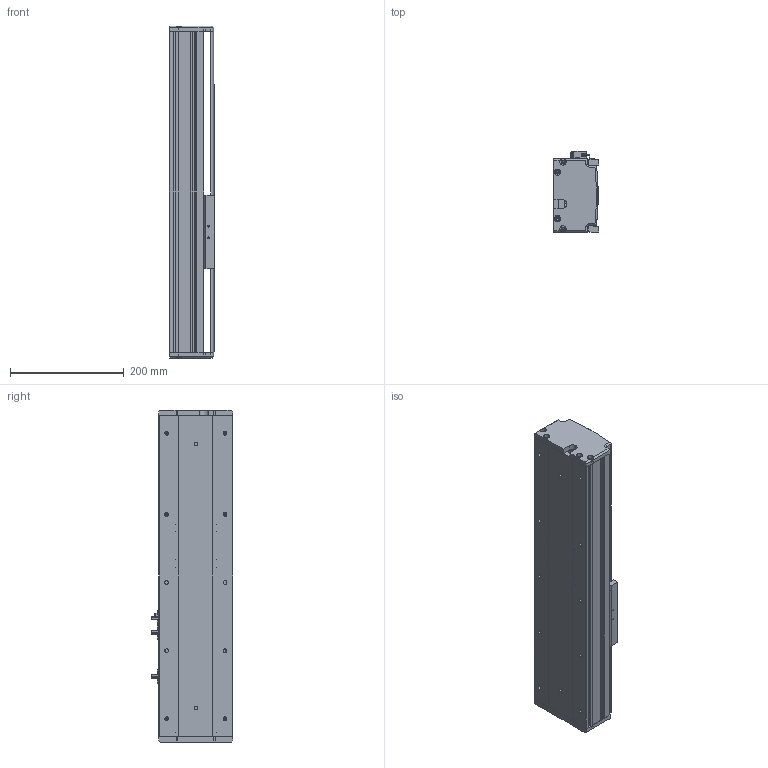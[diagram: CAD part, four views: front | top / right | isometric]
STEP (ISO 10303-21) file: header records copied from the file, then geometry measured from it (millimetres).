
FILE_DESCRIPTION (( 'STEP AP214' ), '1' );
FILE_NAME ('KSD130S-P2010-S100-M-CM.STEP', '2019-09-10T06:21:35', ( '微软用户' ), ( '微软中国' ), 'SwSTEP 2.0', 'SolidWorks 2014', '' );
FILE_SCHEMA (( 'AUTOMOTIVE_DESIGN' ));
Length unit declared in the file: millimetre
Products named in the file (8): KSD130S-P2010-S100-M-CM; 130宽马达安装板半封闭-内装; U倰嫖萇EEㄜSX672; 覜茼え100遵圉猾敕; 130宽盖板半封闭丝杠内装-100行程; 130宽滚珠丝杆安装板半封闭-内装-20丝杆; 130宽端盖半封闭-内装; 130宽底板半封闭丝杠内装-100行程
Assembly tree (9 placements, depth 2):
  KSD130S-P2010-S100-M-CM
    130宽底板半封闭丝杠内装-100行程
    130宽端盖半封闭-内装
    130宽滚珠丝杆安装板半封闭-内装-20丝杆
    130宽盖板半封闭丝杠内装-100行程
    覜茼え100遵圉猾敕
    U倰嫖萇EEㄜSX672  x3
    130宽马达安装板半封闭-内装
Bounding box: 80 x 143.7 x 585 mm (x, y, z)
Volume: 1982145.2 mm3; surface area: 596254.2 mm2
Topology: 9 solids, 9 shells, 963 faces, 2744 edges, 1758 vertices
Faces by surface type: plane 431, cylinder 414, cone 118
Entity records: 29638 total; most frequent: CARTESIAN_POINT 5487, DIRECTION 4342, ORIENTED_EDGE 4248, EDGE_CURVE 2124, AXIS2_PLACEMENT_3D 1557, VERTEX_POINT 1382, LINE 1228, VECTOR 1228
